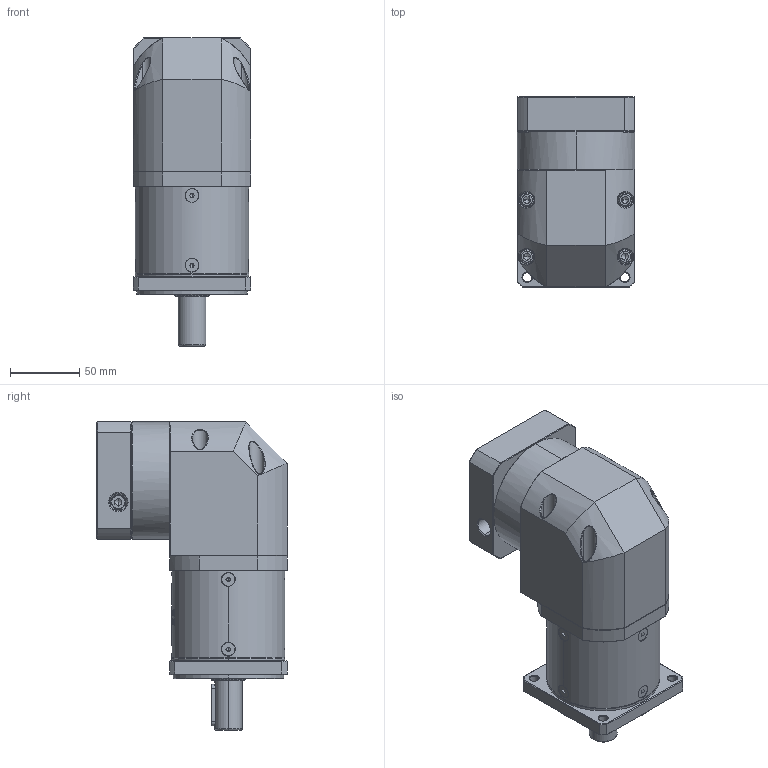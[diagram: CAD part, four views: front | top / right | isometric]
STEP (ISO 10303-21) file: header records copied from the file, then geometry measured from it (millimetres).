
FILE_DESCRIPTION (( 'STEP AP214' ), '1' );
FILE_NAME ('ZFR080-D20-L2-P2-19-70-90-M6.step', '2023-08-25T03:50:02', ( '' ), ( '' ), 'SwSTEP 2.0', 'SolidWorks 2016', '' );
FILE_SCHEMA (( 'AUTOMOTIVE_DESIGN' ));
Length unit declared in the file: millimetre
Products named in the file (1): ZFR080-D20-L2-P2-19-70-90-M6
Bounding box: 85 x 137.6 x 223 mm (x, y, z)
Volume: 1358767.3 mm3; surface area: 139931.3 mm2
Topology: 13 solids, 13 shells, 2431 faces, 6253 edges, 3928 vertices
Faces by surface type: plane 1194, cylinder 425, bspline 418, cone 360, torus 34
Entity records: 126779 total; most frequent: CARTESIAN_POINT 46149, ORIENTED_EDGE 12414, DIRECTION 9465, EDGE_CURVE 6207, VERTEX_POINT 3928, LINE 3357, VECTOR 3357, AXIS2_PLACEMENT_3D 3054
